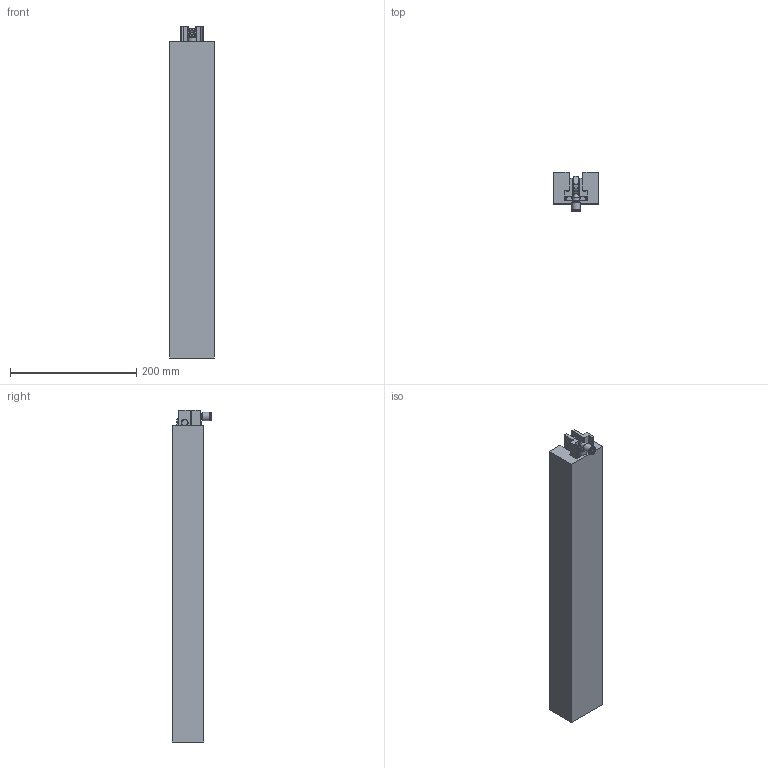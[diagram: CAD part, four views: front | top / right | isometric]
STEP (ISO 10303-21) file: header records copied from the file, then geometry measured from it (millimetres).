
FILE_DESCRIPTION(/* description */ (''),/* implementation_level */ '2;1');
FILE_NAME(/* name */ 'Z:\Standard products\3. Die Lifters\5. DAR - Ball Die Lifter air\DAR22-Max. Height (10-03-17).stp',/* time_stamp */ '2017-03-10T10:20:54+01:00',/* author */ ('breep'),/* organization */ (''),/* preprocessor_version */ 'ST-DEVELOPER v16.1',/* originating_system */ 'Autodesk Inventor 2016',/* authorisation */ '');
FILE_SCHEMA (('AUTOMOTIVE_DESIGN { 1 0 10303 214 3 1 1 }'));
Length unit declared in the file: millimetre
Products named in the file (1): Part2
Bounding box: 70 x 63.06 x 525 mm (x, y, z)
Volume: 1323110.6 mm3; surface area: 268606.7 mm2
Topology: 1 solids, 78 shells, 692 faces, 1691 edges, 1095 vertices
Faces by surface type: cylinder 264, plane 224, torus 90, sphere 59, cone 53, bspline 2
Full cylindrical faces by diameter (mm): 3.242 x4, 4 x4, 4.5 x4, 4.8 x56, 5 x4, 6 x1, 7 x2, 8 x6, 9.4 x1, 10 x28, 10.4 x2, 10.5 x14, 13 x2, 14.7 x28, 15.78 x7, 18 x14, 20.82 x7, 21.9 x14, 22.5 x14, 26 x7
Entity records: 21781 total; most frequent: CARTESIAN_POINT 6948, DIRECTION 3010, ORIENTED_EDGE 2398, AXIS2_PLACEMENT_3D 1355, EDGE_LOOP 1242, EDGE_CURVE 1115, VERTEX_POINT 891, STYLED_ITEM 693
